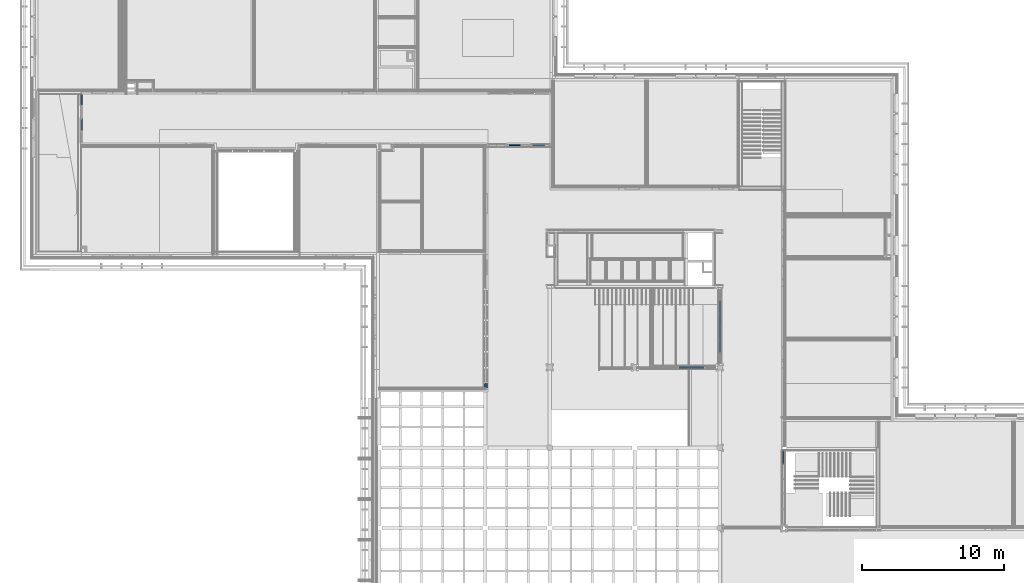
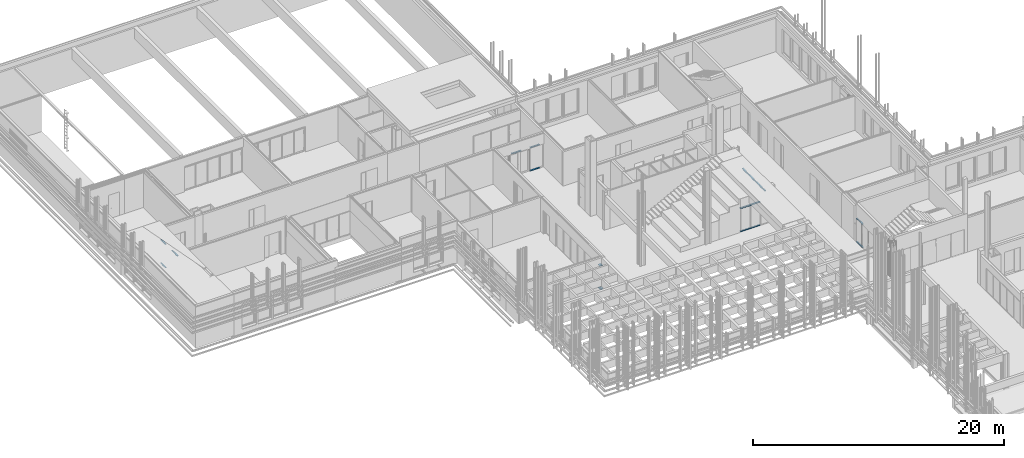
# One storey, part 14 of 139: 20 members, 7 elements without a shape of their own.
"""IFC2X3 building model written with IfcOpenShell, lengths in millimetres."""

from ifc_helpers import new_model, entity, si_unit, converted_unit, derived_unit, money_unit, direction, frame, origin_with_axes, place, context, subcontext, project, spatial, faceted_brep, source, transform, mapped, material, type_object, element, aggregate, save


model = new_model("IFC2X3")

# Units and contexts
model_context = context("Model", 3, precision=0.01, world=origin_with_axes(), true_north=direction((0.0, 1.0)))
body_context = subcontext(model_context, "Body", "Model", "MODEL_VIEW")
ifc_project = project(units=[si_unit("LENGTHUNIT", "METRE", prefix="MILLI"), si_unit("AREAUNIT", "SQUARE_METRE"), si_unit("VOLUMEUNIT", "CUBIC_METRE"), converted_unit("PLANEANGLEUNIT", "DEGREE", entity("IfcPlaneAngleMeasure", 0.0174532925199), si_unit("PLANEANGLEUNIT", "RADIAN"), dimensions=[0, 0, 0, 0, 0, 0, 0]), money_unit("EUR"), converted_unit("TIMEUNIT", "Year", entity("IfcTimeMeasure", 31556926.0), si_unit("TIMEUNIT", "SECOND"), dimensions=[0, 0, 1, 0, 0, 0, 0]), si_unit("MASSUNIT", "GRAM", prefix="KILO"), si_unit("THERMODYNAMICTEMPERATUREUNIT", "DEGREE_CELSIUS"), si_unit("LUMINOUSINTENSITYUNIT", "LUMEN"), si_unit("ENERGYUNIT", "JOULE", prefix="MEGA"), derived_unit("THERMALCONDUCTANCEUNIT", [(si_unit("POWERUNIT", "WATT"), 1), (si_unit("LENGTHUNIT", "METRE"), -1), (si_unit("THERMODYNAMICTEMPERATUREUNIT", "KELVIN"), -1)]), derived_unit("SPECIFICHEATCAPACITYUNIT", [(si_unit("ENERGYUNIT", "JOULE"), 1), (si_unit("MASSUNIT", "GRAM", prefix="KILO"), -1), (si_unit("THERMODYNAMICTEMPERATUREUNIT", "KELVIN"), -1)]), derived_unit("MASSDENSITYUNIT", [(si_unit("MASSUNIT", "GRAM", prefix="KILO"), 1), (si_unit("VOLUMEUNIT", "CUBIC_METRE"), -1)])], contexts=[model_context])

# Site, building, storey
site_placement = place(None, origin_with_axes())
site = spatial("IfcSite", under=ifc_project, at=site_placement, Name="Kolde pst 67a", CompositionType="ELEMENT")
building_placement = place(site_placement, origin_with_axes())
building = spatial("IfcBuilding", under=site, at=building_placement, Name="Riigigümnaasium", CompositionType="ELEMENT")
storey_placement = place(building_placement, frame((0.0, 0.0, 4600.0), z_axis=(0.0, 0.0, 1.0), x_axis=(1.0, 0.0, 0.0)))
storey = spatial("IfcBuildingStorey", under=building, at=storey_placement, Name="2. korrus", CompositionType="ELEMENT", Elevation=4600.0)

# Curtain wall, member
curtain_wall_type = type_object("IfcCurtainWallType", Name="Curtain Wall Type", PredefinedType="NOTDEFINED")
curtain_wall_1_placement = place(storey_placement, frame((35564.9561331, 55789.9111982, 0.0), z_axis=(0.0, 0.0, 1.0), x_axis=(1.0, 0.0, 0.0)))
curtain_wall_1 = element("IfcCurtainWall", 1, at=curtain_wall_1_placement, inside=storey, type_object=curtain_wall_type, Name="KLAASSEIN")
ifc_material_1 = material(Name="_GENEERILINE MATERJAL")
member_type_1 = type_object("IfcMemberType", Name="Boundary Frame 50 x 100", PredefinedType="MEMBER")
shared_shape_1 = source(origin_with_axes(), body_context, "Body", "Brep", [
    faceted_brep([(-50.0, -10.0, 0.0), (-50.0, -100.0, 0.0), (-50.0, -100.0, 850.0), (-50.0, -10.0, 850.0), (-25.0, -10.0, 0.0), (-25.0, 0.0, 0.0), (0.0, 0.0, 0.0), (0.0, -100.0, 0.0), (0.0, -100.0, 850.0), (-25.0, -10.0, 850.0), (0.0, 0.0, 850.0), (-25.0, 0.0, 850.0)], [[[0, 1, 2, 3]], [[4, 5, 6, 7, 1, 0]], [[1, 7, 8, 2]], [[9, 3, 2, 8, 10, 11]], [[9, 4, 0, 3]], [[5, 4, 9, 11]], [[11, 10, 6, 5]], [[7, 6, 10, 8]]]),
])
member_1_placement = place(curtain_wall_1_placement, frame((-505.040923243, 0.0, 0.0), z_axis=(1.0, 0.0, 0.0), x_axis=(0.0, 0.0, 1.0)))
member_1 = element("IfcMember", 2, at=member_1_placement, type_object=member_type_1, material=ifc_material_1, Name="RF RAAM SERV-117", ObjectType="MEMBER", context=body_context, shape_type="MappedRepresentation", body=[
    mapped(shared_shape_1, transform((0.0, 0.0, 0.0), x_axis=(-1.0, 0.0, 0.0), y_axis=(0.0, -1.0, 0.0), z_axis=(0.0, 0.0, 1.0))),
])

# Curtain wall, members
curtain_wall_2_placement = place(storey_placement, frame((3208.80952236, 58094.9979478, 0.0), z_axis=(0.0, 0.0, 1.0), x_axis=(1.0, 0.0, 0.0)))
curtain_wall_2 = element("IfcCurtainWall", 3, at=curtain_wall_2_placement, inside=storey, type_object=curtain_wall_type, Name="KLAASSEIN")
member_2_placement = place(curtain_wall_2_placement, frame((0.0, -500.0, 2300.00008941), z_axis=(0.0, -1.0, 0.0), x_axis=(0.0, 0.0, 1.0)))
member_2 = element("IfcMember", 4, at=member_2_placement, type_object=member_type_1, material=ifc_material_1, Name="RF RAAM SERV-206", ObjectType="MEMBER", context=body_context, shape_type="MappedRepresentation", body=[
    mapped(shared_shape_1, transform((0.0, 0.0, 0.0))),
])
shared_shape_2 = source(origin_with_axes(), body_context, "Body", "Brep", [
    faceted_brep([(-50.0, -10.0, 50.0), (-50.0, -100.0, 50.0), (-50.0, -100.0, 755.000008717), (-50.0, -10.0, 755.000008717), (-25.0, -10.0, 25.0), (-25.0, 0.0, 25.0), (0.0, 0.0, 0.0), (0.0, -100.0, 0.0), (0.0, -100.0, 755.000008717), (-25.0, -10.0, 755.000008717), (0.0, 0.0, 755.000008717), (-25.0, 0.0, 755.000008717)], [[[0, 1, 2, 3]], [[4, 5, 6, 7, 1, 0]], [[2, 1, 7, 8]], [[9, 3, 2, 8, 10, 11]], [[9, 4, 0, 3]], [[5, 4, 9, 11]], [[11, 10, 6, 5]], [[8, 7, 6, 10]]]),
])
member_3_placement = place(curtain_wall_2_placement, frame((0.0, 1255.00000872, 2300.00008941), z_axis=(0.0, -1.0, 0.0), x_axis=(0.0, 0.0, 1.0)))
member_3 = element("IfcMember", 5, at=member_3_placement, type_object=member_type_1, material=ifc_material_1, Name="RF RAAM SERV-195", ObjectType="MEMBER", context=body_context, shape_type="MappedRepresentation", body=[
    mapped(shared_shape_2, transform((0.0, 0.0, 0.0))),
])
shared_shape_3 = source(origin_with_axes(), body_context, "Body", "Brep", [
    faceted_brep([(50.0, -10.0, 50.0), (50.0, -10.0, 765.000008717), (50.0, -100.0, 765.000008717), (50.0, -100.0, 50.0), (25.0, -10.0, 765.000008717), (25.0, -10.0, 25.0), (25.0, 0.0, 765.000008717), (0.0, 0.0, 765.000008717), (0.0, -100.0, 765.000008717), (0.0, -100.0, 0.0), (0.0, 0.0, 0.0), (25.0, 0.0, 25.0)], [[[0, 1, 2, 3]], [[4, 1, 0, 5]], [[4, 6, 7, 8, 2, 1]], [[2, 8, 9, 3]], [[5, 0, 3, 9, 10, 11]], [[11, 6, 4, 5]], [[6, 11, 10, 7]], [[8, 7, 10, 9]]]),
])
member_4_placement = place(curtain_wall_2_placement, frame((0.0, 1255.00000872, 0.0), z_axis=(0.0, -1.0, 0.0), x_axis=(0.0, 0.0, 1.0)))
member_4 = element("IfcMember", 6, at=member_4_placement, type_object=member_type_1, material=ifc_material_1, Name="RF RAAM SERV-197", ObjectType="MEMBER", context=body_context, shape_type="MappedRepresentation", body=[
    mapped(shared_shape_3, transform((0.0, 0.0, 0.0))),
])
aggregate(curtain_wall_2, [member_3, member_4, member_2])

# Curtain wall, member
curtain_wall_3_placement = place(storey_placement, frame((31870.0027331, 43954.3993317, -4.05869560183e-06), z_axis=(0.0, 0.0, 1.0), x_axis=(1.0, 0.0, 0.0)))
curtain_wall_3 = element("IfcCurtainWall", 7, at=curtain_wall_3_placement, inside=storey, type_object=curtain_wall_type, Name="KLAASSEIN")
ifc_material_2 = material(Name="_METALL - alumiinium")
member_type_2 = type_object("IfcMemberType", Name="Boundary Frame 50 x 120", PredefinedType="MEMBER")
shared_shape_4 = source(origin_with_axes(), body_context, "Body", "Brep", [
    faceted_brep([(30.0, -10.0, 269.418434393), (30.0, 10.0, 269.418434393), (50.0, 10.0, 249.418434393), (50.0, 20.0, 249.418434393), (0.0, 20.0, 299.418434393), (0.0, -100.0, 299.418434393), (50.0, -100.0, 249.418434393), (50.0, -10.0, 249.418434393), (30.0, -10.0, 0.0), (30.0, 10.0, 0.0), (50.0, 10.0, 0.0), (50.0, 20.0, 0.0), (0.0, 20.0, 0.0), (0.0, -100.0, 0.0), (50.0, -100.0, 0.0), (50.0, -10.0, 0.0)], [[[0, 1, 2, 3, 4, 5, 6, 7]], [[1, 0, 8, 9]], [[10, 2, 1, 9]], [[2, 10, 11, 3]], [[12, 4, 3, 11]], [[13, 5, 4, 12]], [[14, 6, 5, 13]], [[15, 7, 6, 14]], [[0, 7, 15, 8]], [[8, 15, 14, 13, 12, 11, 10, 9]]]),
])
member_5_placement = place(curtain_wall_3_placement, frame((0.0, -4995.0, 2300.00000406), z_axis=(0.0, -1.0, 0.0), x_axis=(0.0, 0.0, 1.0)))
member_5 = element("IfcMember", 8, at=member_5_placement, type_object=member_type_2, material=ifc_material_2, Name="RF RAAM SERV-056", ObjectType="MEMBER", context=body_context, shape_type="MappedRepresentation", body=[
    mapped(shared_shape_4, transform((0.0, 0.0, 0.0), x_axis=(-1.0, 0.0, 0.0), y_axis=(0.0, -1.0, 0.0), z_axis=(0.0, 0.0, 1.0))),
])

curtain_wall_4_placement = place(storey_placement, frame((31671.5141048, 43954.3993317, -3.29954614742e-05), z_axis=(0.0, 0.0, 1.0), x_axis=(1.0, 0.0, 0.0)))
curtain_wall_4 = element("IfcCurtainWall", 9, at=curtain_wall_4_placement, inside=storey, type_object=curtain_wall_type, Name="KLAASSEIN")
member_6_placement = place(curtain_wall_4_placement, frame((0.0, -4995.0, 0.0), z_axis=(0.0, -1.0, 0.0), x_axis=(0.0, 0.0, 1.0)))
member_6 = element("IfcMember", 10, at=member_6_placement, type_object=member_type_2, material=ifc_material_2, Name="RF RAAM SERV-072", ObjectType="MEMBER", context=body_context, shape_type="MappedRepresentation", body=[
    mapped(shared_shape_4, transform((0.0, 0.0, 0.0))),
])

# Member
shared_shape_5 = source(origin_with_axes(), body_context, "Body", "Brep", [
    faceted_brep([(-30.0, -10.0, 269.418434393), (-50.0, -10.0, 249.418434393), (-50.0, -100.0, 249.418434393), (0.0, -100.0, 299.418434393), (0.0, 20.0, 299.418434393), (-50.0, 20.0, 249.418434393), (-50.0, 10.0, 249.418434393), (-30.0, 10.0, 269.418434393), (-30.0, -10.0, 0.0), (-50.0, -10.0, 0.0), (-50.0, -100.0, 0.0), (0.0, -100.0, 0.0), (0.0, 20.0, 0.0), (-50.0, 20.0, 0.0), (-50.0, 10.0, 0.0), (-30.0, 10.0, 0.0)], [[[0, 1, 2, 3, 4, 5, 6, 7]], [[0, 8, 9, 1]], [[9, 10, 2, 1]], [[10, 11, 3, 2]], [[11, 12, 4, 3]], [[12, 13, 5, 4]], [[6, 5, 13, 14]], [[14, 15, 7, 6]], [[7, 15, 8, 0]], [[8, 15, 14, 13, 12, 11, 10, 9]]]),
])
member_7_placement = place(curtain_wall_3_placement, frame((0.0, -4995.0, 0.0), z_axis=(0.0, -1.0, 0.0), x_axis=(0.0, 0.0, 1.0)))
member_7 = element("IfcMember", 11, at=member_7_placement, type_object=member_type_2, material=ifc_material_2, Name="RF RAAM SERV-054", ObjectType="MEMBER", context=body_context, shape_type="MappedRepresentation", body=[
    mapped(shared_shape_5, transform((0.0, 0.0, 0.0), x_axis=(-1.0, 0.0, 0.0), y_axis=(0.0, -1.0, 0.0), z_axis=(0.0, 0.0, 1.0))),
])

aggregate(curtain_wall_3, [member_5, member_7])

member_8_placement = place(curtain_wall_4_placement, frame((0.0, -4995.0, 2300.000033), z_axis=(0.0, -1.0, 0.0), x_axis=(0.0, 0.0, 1.0)))
member_8 = element("IfcMember", 12, at=member_8_placement, type_object=member_type_2, material=ifc_material_2, Name="RF RAAM SERV-074", ObjectType="MEMBER", context=body_context, shape_type="MappedRepresentation", body=[
    mapped(shared_shape_5, transform((0.0, 0.0, 0.0))),
])

aggregate(curtain_wall_4, [member_8, member_6])

shared_shape_6 = source(origin_with_axes(), body_context, "Body", "Brep", [
    faceted_brep([(50.0, -10.0, 0.0), (50.0, -10.0, 850.0), (50.0, -100.0, 850.0), (50.0, -100.0, 0.0), (25.0, -10.0, 850.0), (25.0, -10.0, 0.0), (25.0, 0.0, 850.0), (0.0, 0.0, 850.0), (0.0, -100.0, 850.0), (0.0, -100.0, 0.0), (0.0, 0.0, 0.0), (25.0, 0.0, 0.0)], [[[0, 1, 2, 3]], [[4, 1, 0, 5]], [[4, 6, 7, 8, 2, 1]], [[3, 2, 8, 9]], [[5, 0, 3, 9, 10, 11]], [[11, 6, 4, 5]], [[6, 11, 10, 7]], [[9, 8, 7, 10]]]),
])
member_9_placement = place(curtain_wall_1_placement, frame((-2205.04092324, 0.0, 2300.0), z_axis=(1.0, 0.0, 0.0), x_axis=(0.0, 0.0, 1.0)))
member_9 = element("IfcMember", 13, at=member_9_placement, type_object=member_type_1, material=ifc_material_1, Name="RF RAAM SERV-123", ObjectType="MEMBER", context=body_context, shape_type="MappedRepresentation", body=[
    mapped(shared_shape_6, transform((0.0, 0.0, 0.0), x_axis=(-1.0, 0.0, 0.0), y_axis=(0.0, -1.0, 0.0), z_axis=(0.0, 0.0, 1.0))),
])

member_10_placement = place(curtain_wall_1_placement, frame((-505.040923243, 0.0, 2300.0), z_axis=(1.0, 0.0, 0.0), x_axis=(0.0, 0.0, 1.0)))
member_10 = element("IfcMember", 14, at=member_10_placement, type_object=member_type_1, material=ifc_material_1, Name="RF RAAM SERV-121", ObjectType="MEMBER", context=body_context, shape_type="MappedRepresentation", body=[
    mapped(shared_shape_6, transform((0.0, 0.0, 0.0), x_axis=(-1.0, 0.0, 0.0), y_axis=(0.0, -1.0, 0.0), z_axis=(0.0, 0.0, 1.0))),
])

aggregate(curtain_wall_1, [member_9, member_1, member_10])

# Curtain wall, members
curtain_wall_5_placement = place(storey_placement, frame((47589.9854607, 40044.9999177, -2.01657108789e-05), z_axis=(0.0, 0.0, 1.0), x_axis=(1.0, 0.0, 0.0)))
curtain_wall_5 = element("IfcCurtainWall", 15, at=curtain_wall_5_placement, inside=storey, type_object=curtain_wall_type, Name="KLAASSEIN")
ifc_material_3 = material(Name="_KANDETARIND - puitkarkass")
shared_shape_7 = source(origin_with_axes(), body_context, "Body", "Brep", [
    faceted_brep([(-30.0, -10.0, 900.0), (-50.0, -10.0, 900.0), (-50.0, -100.0, 900.0), (0.0, -100.0, 900.0), (0.0, 20.0, 900.0), (-50.0, 20.0, 900.0), (-50.0, 10.0, 900.0), (-30.0, 10.0, 900.0), (-30.0, -10.0, 0.0), (-50.0, -10.0, 0.0), (-50.0, -100.0, 0.0), (0.0, -100.0, 0.0), (0.0, 20.0, 0.0), (-50.0, 20.0, 0.0), (-50.0, 10.0, 0.0), (-30.0, 10.0, 0.0)], [[[0, 1, 2, 3, 4, 5, 6, 7]], [[0, 8, 9, 1]], [[9, 10, 2, 1]], [[10, 11, 3, 2]], [[11, 12, 4, 3]], [[12, 13, 5, 4]], [[6, 5, 13, 14]], [[14, 15, 7, 6]], [[7, 15, 8, 0]], [[8, 15, 14, 13, 12, 11, 10, 9]]]),
])
member_11_placement = place(curtain_wall_5_placement, frame((-450.0, 0.0, 0.0), z_axis=(-1.0, 0.0, 0.0), x_axis=(0.0, 0.0, 1.0)))
member_11 = element("IfcMember", 16, at=member_11_placement, type_object=member_type_2, material=ifc_material_3, Name="RF RAAM SERV-143", ObjectType="MEMBER", context=body_context, shape_type="MappedRepresentation", body=[
    mapped(shared_shape_7, transform((0.0, 0.0, 0.0), x_axis=(-1.0, 0.0, 0.0), y_axis=(0.0, -1.0, 0.0), z_axis=(0.0, 0.0, 1.0))),
])
member_12_placement = place(curtain_wall_5_placement, frame((-1350.0, 0.0, 0.0), z_axis=(-1.0, 0.0, 0.0), x_axis=(0.0, 0.0, 1.0)))
member_12 = element("IfcMember", 17, at=member_12_placement, type_object=member_type_2, material=ifc_material_3, Name="RF RAAM SERV-144", ObjectType="MEMBER", context=body_context, shape_type="MappedRepresentation", body=[
    mapped(shared_shape_7, transform((0.0, 0.0, 0.0), x_axis=(-1.0, 0.0, 0.0), y_axis=(0.0, -1.0, 0.0), z_axis=(0.0, 0.0, 1.0))),
])
shared_shape_8 = source(origin_with_axes(), body_context, "Body", "Brep", [
    faceted_brep([(30.0, -10.0, 900.0), (30.0, 10.0, 900.0), (50.0, 10.0, 900.0), (50.0, 20.0, 900.0), (0.0, 20.0, 900.0), (0.0, -100.0, 900.0), (50.0, -100.0, 900.0), (50.0, -10.0, 900.0), (30.0, -10.0, 0.0), (30.0, 10.0, 0.0), (50.0, 10.0, 0.0), (50.0, 20.0, 0.0), (0.0, 20.0, 0.0), (0.0, -100.0, 0.0), (50.0, -100.0, 0.0), (50.0, -10.0, 0.0)], [[[0, 1, 2, 3, 4, 5, 6, 7]], [[1, 0, 8, 9]], [[10, 2, 1, 9]], [[2, 10, 11, 3]], [[12, 4, 3, 11]], [[13, 5, 4, 12]], [[14, 6, 5, 13]], [[15, 7, 6, 14]], [[0, 7, 15, 8]], [[8, 15, 14, 13, 12, 11, 10, 9]]]),
])
member_13_placement = place(curtain_wall_5_placement, frame((-450.0, 0.0, 2300.00002017), z_axis=(-1.0, 0.0, 0.0), x_axis=(0.0, 0.0, 1.0)))
member_13 = element("IfcMember", 18, at=member_13_placement, type_object=member_type_2, material=ifc_material_3, Name="RF RAAM SERV-149", ObjectType="MEMBER", context=body_context, shape_type="MappedRepresentation", body=[
    mapped(shared_shape_8, transform((0.0, 0.0, 0.0), x_axis=(-1.0, 0.0, 0.0), y_axis=(0.0, -1.0, 0.0), z_axis=(0.0, 0.0, 1.0))),
])
member_14_placement = place(curtain_wall_5_placement, frame((-1350.0, 0.0, 2300.00002017), z_axis=(-1.0, 0.0, 0.0), x_axis=(0.0, 0.0, 1.0)))
member_14 = element("IfcMember", 19, at=member_14_placement, type_object=member_type_2, material=ifc_material_3, Name="RF RAAM SERV-148", ObjectType="MEMBER", context=body_context, shape_type="MappedRepresentation", body=[
    mapped(shared_shape_8, transform((0.0, 0.0, 0.0), x_axis=(-1.0, 0.0, 0.0), y_axis=(0.0, -1.0, 0.0), z_axis=(0.0, 0.0, 1.0))),
])
aggregate(curtain_wall_5, [member_11, member_13, member_14, member_12])

curtain_wall_6_placement = place(storey_placement, frame((48304.9854607, 45219.9999598, 0.0), z_axis=(0.0, 0.0, 1.0), x_axis=(1.0, 0.0, 0.0)))
curtain_wall_6 = element("IfcCurtainWall", 20, at=curtain_wall_6_placement, inside=storey, type_object=curtain_wall_type, Name="KLAASSEIN")
shared_shape_9 = source(origin_with_axes(), body_context, "Body", "Brep", [
    faceted_brep([(50.0, -10.0, 0.0), (50.0, -10.0, 900.0), (50.0, -100.0, 900.0), (50.0, -100.0, 0.0), (25.0, -10.0, 900.0), (25.0, -10.0, 0.0), (25.0, 0.0, 900.0), (0.0, 0.0, 900.0), (0.0, -100.0, 900.0), (0.0, -100.0, 0.0), (0.0, 0.0, 0.0), (25.0, 0.0, 0.0)], [[[0, 1, 2, 3]], [[4, 1, 0, 5]], [[4, 6, 7, 8, 2, 1]], [[3, 2, 8, 9]], [[5, 0, 3, 9, 10, 11]], [[11, 6, 4, 5]], [[6, 11, 10, 7]], [[9, 8, 7, 10]]]),
])
member_15_placement = place(curtain_wall_6_placement, frame((0.0, -450.0, 2300.00008941), z_axis=(0.0, -1.0, 0.0), x_axis=(0.0, 0.0, 1.0)))
member_15 = element("IfcMember", 21, at=member_15_placement, type_object=member_type_1, material=ifc_material_3, Name="RF RAAM SERV-203", ObjectType="MEMBER", context=body_context, shape_type="MappedRepresentation", body=[
    mapped(shared_shape_9, transform((0.0, 0.0, 0.0), x_axis=(-1.0, 0.0, 0.0), y_axis=(0.0, -1.0, 0.0), z_axis=(0.0, 0.0, 1.0))),
])
member_16_placement = place(curtain_wall_6_placement, frame((0.0, -1350.0, 2300.00008941), z_axis=(0.0, -1.0, 0.0), x_axis=(0.0, 0.0, 1.0)))
member_16 = element("IfcMember", 22, at=member_16_placement, type_object=member_type_1, material=ifc_material_3, Name="RF RAAM SERV-202", ObjectType="MEMBER", context=body_context, shape_type="MappedRepresentation", body=[
    mapped(shared_shape_9, transform((0.0, 0.0, 0.0), x_axis=(-1.0, 0.0, 0.0), y_axis=(0.0, -1.0, 0.0), z_axis=(0.0, 0.0, 1.0))),
])
member_17_placement = place(curtain_wall_6_placement, frame((0.0, -2250.0, 2300.00008941), z_axis=(0.0, -1.0, 0.0), x_axis=(0.0, 0.0, 1.0)))
member_17 = element("IfcMember", 23, at=member_17_placement, type_object=member_type_1, material=ifc_material_3, Name="RF RAAM SERV-201", ObjectType="MEMBER", context=body_context, shape_type="MappedRepresentation", body=[
    mapped(shared_shape_9, transform((0.0, 0.0, 0.0), x_axis=(-1.0, 0.0, 0.0), y_axis=(0.0, -1.0, 0.0), z_axis=(0.0, 0.0, 1.0))),
])
member_18_placement = place(curtain_wall_6_placement, frame((0.0, -3150.0, 2300.00008941), z_axis=(0.0, -1.0, 0.0), x_axis=(0.0, 0.0, 1.0)))
member_18 = element("IfcMember", 24, at=member_18_placement, type_object=member_type_1, material=ifc_material_3, Name="RF RAAM SERV-200", ObjectType="MEMBER", context=body_context, shape_type="MappedRepresentation", body=[
    mapped(shared_shape_9, transform((0.0, 0.0, 0.0), x_axis=(-1.0, 0.0, 0.0), y_axis=(0.0, -1.0, 0.0), z_axis=(0.0, 0.0, 1.0))),
])
aggregate(curtain_wall_6, [member_15, member_16, member_17, member_18])

curtain_wall_7_placement = place(storey_placement, frame((52619.9941222, 32759.7635899, -0.000120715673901), z_axis=(0.0, 0.0, 1.0), x_axis=(1.0, 0.0, 0.0)))
curtain_wall_7 = element("IfcCurtainWall", 25, at=curtain_wall_7_placement, inside=storey, type_object=curtain_wall_type, Name="KLAASSEIN")
shared_shape_10 = source(origin_with_axes(), body_context, "Body", "Brep", [
    faceted_brep([(-50.0, -10.0, 50.0), (-50.0, -100.0, 50.0), (-50.0, -100.0, 955.236423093), (-50.0, -10.0, 955.236423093), (-25.0, -10.0, 25.0), (-25.0, 0.0, 25.0), (0.0, 0.0, 0.0), (0.0, -100.0, 0.0), (0.0, -100.0, 955.236423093), (-25.0, -10.0, 955.236423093), (0.0, 0.0, 955.236423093), (-25.0, 0.0, 955.236423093)], [[[0, 1, 2, 3]], [[4, 5, 6, 7, 1, 0]], [[2, 1, 7, 8]], [[9, 3, 2, 8, 10, 11]], [[9, 4, 0, 3]], [[5, 4, 9, 11]], [[11, 10, 6, 5]], [[8, 7, 6, 10]]]),
])
member_19_placement = place(curtain_wall_7_placement, frame((0.0, 1480.23642309, 2300.00012072), z_axis=(0.0, -1.0, 0.0), x_axis=(0.0, 0.0, 1.0)))
member_19 = element("IfcMember", 26, at=member_19_placement, type_object=member_type_1, material=ifc_material_1, Name="RF RAAM SERV-589", ObjectType="MEMBER", context=body_context, shape_type="MappedRepresentation", body=[
    mapped(shared_shape_10, transform((0.0, 0.0, 0.0))),
])
shared_shape_11 = source(origin_with_axes(), body_context, "Body", "Brep", [
    faceted_brep([(50.0, -10.0, 50.0), (50.0, -10.0, 955.236423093), (50.0, -100.0, 955.236423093), (50.0, -100.0, 50.0), (25.0, -10.0, 955.236423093), (25.0, -10.0, 25.0), (25.0, 0.0, 955.236423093), (0.0, 0.0, 955.236423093), (0.0, -100.0, 955.236423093), (0.0, -100.0, 0.0), (0.0, 0.0, 0.0), (25.0, 0.0, 25.0)], [[[0, 1, 2, 3]], [[4, 1, 0, 5]], [[4, 6, 7, 8, 2, 1]], [[2, 8, 9, 3]], [[5, 0, 3, 9, 10, 11]], [[11, 6, 4, 5]], [[6, 11, 10, 7]], [[8, 7, 10, 9]]]),
])
member_20_placement = place(curtain_wall_7_placement, frame((0.0, 1480.23642309, 0.0), z_axis=(0.0, -1.0, 0.0), x_axis=(0.0, 0.0, 1.0)))
member_20 = element("IfcMember", 27, at=member_20_placement, type_object=member_type_1, material=ifc_material_1, Name="RF RAAM SERV-591", ObjectType="MEMBER", context=body_context, shape_type="MappedRepresentation", body=[
    mapped(shared_shape_11, transform((0.0, 0.0, 0.0))),
])
aggregate(curtain_wall_7, [member_19, member_20])

save(model, "model.ifc")
